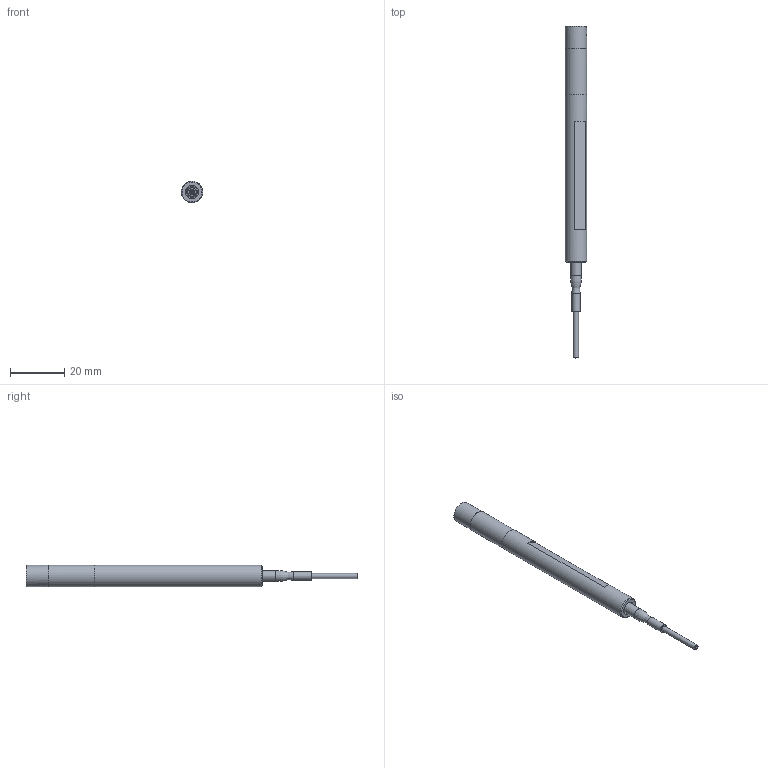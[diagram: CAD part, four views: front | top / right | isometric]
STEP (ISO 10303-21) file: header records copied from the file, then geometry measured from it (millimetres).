
FILE_DESCRIPTION(/* description */ (''),/* implementation_level */ '2;1');
FILE_NAME(/* name */ 'K:\ME\CAD Daten\IFS2403\90\IFS2403_90-1,5.stp',/* time_stamp */ '2019-02-12T13:51:59+01:00',/* author */ ('sven'),/* organization */ (''),/* preprocessor_version */ 'ST-DEVELOPER v16.13',/* originating_system */ 'Autodesk Inventor 2018',/* authorisation */ '');
FILE_SCHEMA (('AUTOMOTIVE_DESIGN { 1 0 10303 214 3 1 1 }'));
Length unit declared in the file: millimetre
Products named in the file (10): IFS2403_90-1,5; 10.00031_Außenrohr_mb1,5GA4,9; 10.00036_Kappe_MB1,5GA4,9; 10.00040_Prismenhalter_MB1,5GA4,9; 20.00018_Prisma5mm; 30.00002_Schrumpfschlauch; 40.00006_StdFaser; ferrule; faser; Tubing
Assembly tree (9 placements, depth 3):
  IFS2403_90-1,5
    10.00031_Außenrohr_mb1,5GA4,9
    10.00036_Kappe_MB1,5GA4,9
    10.00040_Prismenhalter_MB1,5GA4,9
    20.00018_Prisma5mm
    30.00002_Schrumpfschlauch
    40.00006_StdFaser
      ferrule
      faser
      Tubing
Bounding box: 7.99 x 122.94 x 8 mm (x, y, z)
Volume: 2607.2 mm3; surface area: 5457.4 mm2
Topology: 8 solids, 8 shells, 65 faces, 133 edges, 86 vertices
Faces by surface type: plane 41, cylinder 21, bspline 2, cone 1
Full cylindrical faces by diameter (mm): 0.63 x1, 1 x1, 1.39 x1, 1.712 x1, 1.8 x1, 1.9 x1, 2.5 x1, 3.14 x1, 4 x1, 4.9 x1, 5 x1, 6 x1, 7.2 x2, 7.9 x1, 8 x2
Entity records: 2168 total; most frequent: CARTESIAN_POINT 463, DIRECTION 321, ORIENTED_EDGE 218, AXIS2_PLACEMENT_3D 133, EDGE_CURVE 109, EDGE_LOOP 96, VERTEX_POINT 81, FACE_OUTER_BOUND 65
